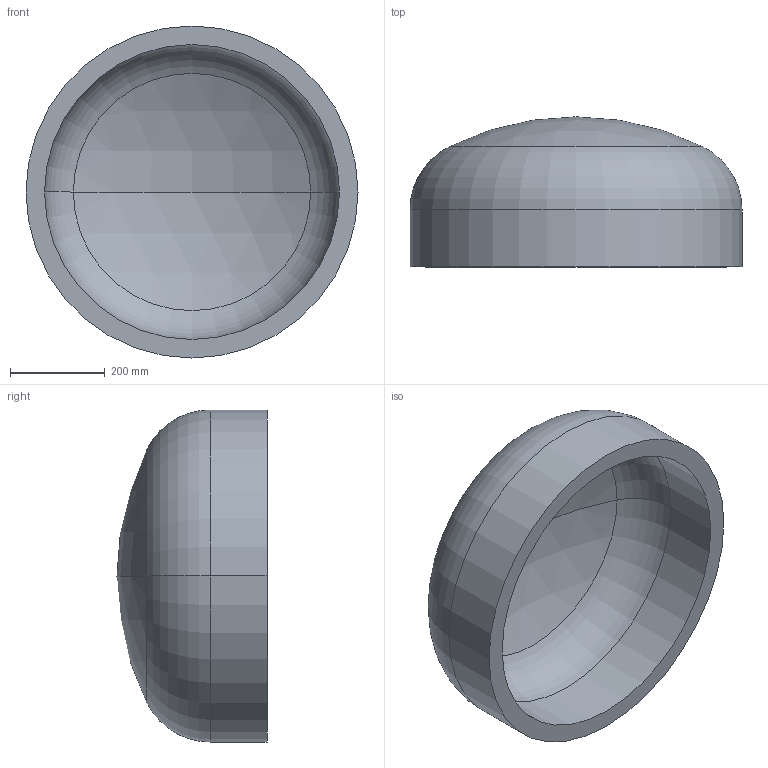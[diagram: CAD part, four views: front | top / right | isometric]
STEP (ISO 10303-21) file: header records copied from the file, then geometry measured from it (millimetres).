
FILE_DESCRIPTION (( 'STEP AP203' ), '1' );
FILE_NAME ('DIN 28013 Korbbogenform_-_Boden DIN 28013 - 700 x 120 - I - s=39.step', '2016-07-01T08:07:30', ( '' ), ( '' ), 'SwSTEP 2.0', 'SolidWorks 2013', '' );
FILE_SCHEMA (( 'CONFIG_CONTROL_DESIGN' ));
Length unit declared in the file: millimetre
Products named in the file (1): DIN 28013 Korbbogenform_-_Boden DIN 28013 - 700 x 120 - I - s=39
Bounding box: 700 x 316.38 x 700 mm (x, y, z)
Volume: 29157135.4 mm3; surface area: 1579410.1 mm2
Topology: 1 solids, 1 shells, 13 faces, 24 edges, 14 vertices
Faces by surface type: torus 4, cylinder 4, sphere 4, plane 1
Entity records: 407 total; most frequent: DIRECTION 72, CARTESIAN_POINT 52, ORIENTED_EDGE 48, AXIS2_PLACEMENT_3D 34, EDGE_CURVE 24, CIRCLE 20, EDGE_LOOP 14, VERTEX_POINT 14
